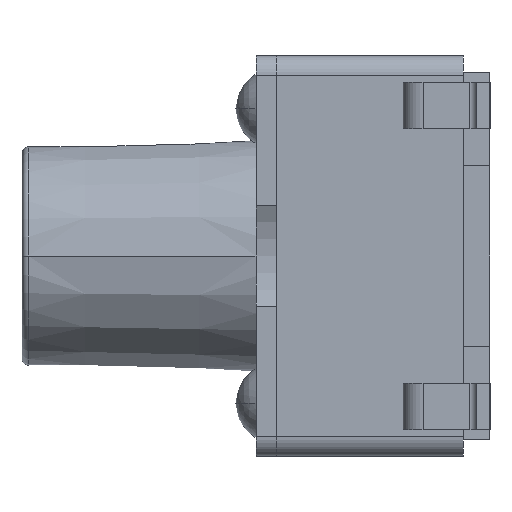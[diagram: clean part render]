
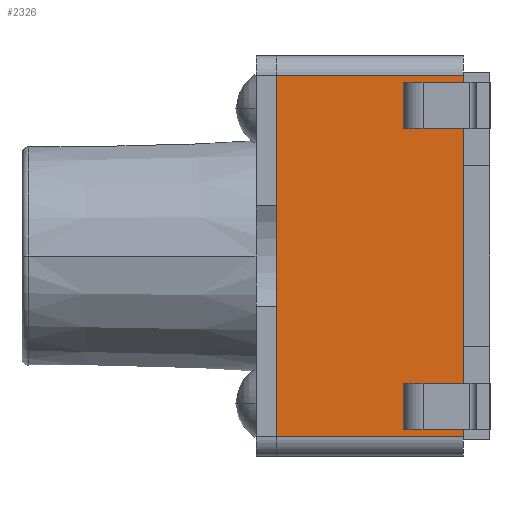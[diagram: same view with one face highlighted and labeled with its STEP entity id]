
A CAD part, left-side view. The second image highlights one B-rep face of the part: STEP entity #2326.
In plain terms, the highlighted planar face has unit normal (-1, 0, 0).
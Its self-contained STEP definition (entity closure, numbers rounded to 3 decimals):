
#165=DIRECTION('',(0.,-1.,0.));
#166=VECTOR('',#165,2.8);
#167=CARTESIAN_POINT('',(-3.,3.2,-2.7));
#168=LINE('',#167,#166);
#209=DIRECTION('',(0.,1.,0.));
#210=VECTOR('',#209,2.8);
#211=CARTESIAN_POINT('',(-3.,0.4,2.7));
#212=LINE('',#211,#210);
#217=DIRECTION('',(0.,0.,-1.));
#218=VECTOR('',#217,5.4);
#219=CARTESIAN_POINT('',(-3.,0.4,2.7));
#220=LINE('',#219,#218);
#221=DIRECTION('',(0.,0.,1.));
#222=VECTOR('',#221,5.4);
#223=CARTESIAN_POINT('',(-3.,3.2,-2.7));
#224=LINE('',#223,#222);
#225=DIRECTION('',(0.,0.,1.));
#226=VECTOR('',#225,0.7);
#227=CARTESIAN_POINT('',(-3.,1.1,1.9));
#228=LINE('',#227,#226);
#229=DIRECTION('',(0.,1.,0.));
#230=VECTOR('',#229,0.2);
#231=CARTESIAN_POINT('',(-3.,1.1,2.6));
#232=LINE('',#231,#230);
#233=DIRECTION('',(0.,0.,-1.));
#234=VECTOR('',#233,0.7);
#235=CARTESIAN_POINT('',(-3.,1.3,2.6));
#236=LINE('',#235,#234);
#237=DIRECTION('',(0.,0.,1.));
#238=VECTOR('',#237,0.7);
#239=CARTESIAN_POINT('',(-3.,1.1,-2.6));
#240=LINE('',#239,#238);
#241=DIRECTION('',(0.,1.,0.));
#242=VECTOR('',#241,0.2);
#243=CARTESIAN_POINT('',(-3.,1.1,-1.9));
#244=LINE('',#243,#242);
#245=DIRECTION('',(0.,0.,-1.));
#246=VECTOR('',#245,0.7);
#247=CARTESIAN_POINT('',(-3.,1.3,-1.9));
#248=LINE('',#247,#246);
#585=DIRECTION('',(0.,1.,0.));
#586=VECTOR('',#585,0.2);
#587=CARTESIAN_POINT('',(-3.,1.1,1.9));
#588=LINE('',#587,#586);
#725=DIRECTION('',(0.,1.,0.));
#726=VECTOR('',#725,0.2);
#727=CARTESIAN_POINT('',(-3.,1.1,-2.6));
#728=LINE('',#727,#726);
#1566=CARTESIAN_POINT('',(-3.,0.4,
-2.7));
#1568=VERTEX_POINT('',#1566);
#1569=CARTESIAN_POINT('',(-3.,0.4,
2.7));
#1570=VERTEX_POINT('',#1569);
#1611=CARTESIAN_POINT('',(-3.,3.2,
-2.7));
#1612=VERTEX_POINT('',#1611);
#1639=CARTESIAN_POINT('',(-3.,3.2,2.7));
#1640=VERTEX_POINT('',#1639);
#1641=CARTESIAN_POINT('',(-3.,1.1,1.9));
#1642=CARTESIAN_POINT('',(-3.,1.3,1.9));
#1643=VERTEX_POINT('',#1641);
#1644=VERTEX_POINT('',#1642);
#1645=CARTESIAN_POINT('',(-3.,1.1,2.6));
#1646=VERTEX_POINT('',#1645);
#1647=CARTESIAN_POINT('',(-3.,1.3,2.6));
#1648=VERTEX_POINT('',#1647);
#1649=CARTESIAN_POINT('',(-3.,1.1,
-2.6));
#1650=CARTESIAN_POINT('',(-3.,1.3,
-2.6));
#1651=VERTEX_POINT('',#1649);
#1652=VERTEX_POINT('',#1650);
#1653=CARTESIAN_POINT('',(-3.,1.1,
-1.9));
#1654=VERTEX_POINT('',#1653);
#1655=CARTESIAN_POINT('',(-3.,1.3,
-1.9));
#1656=VERTEX_POINT('',#1655);
#2294=CARTESIAN_POINT('',(-3.,0.,-2.7));
#2295=DIRECTION('',(-1.,0.,0.));
#2296=DIRECTION('',(0.,0.,1.));
#2297=AXIS2_PLACEMENT_3D('',#2294,#2295,#2296);
#2298=PLANE('',#2297);
#2299=ORIENTED_EDGE('',*,*,#2121,.T.);
#2300=ORIENTED_EDGE('',*,*,#2185,.F.);
#2302=ORIENTED_EDGE('',*,*,#2301,.T.);
#2303=ORIENTED_EDGE('',*,*,#2286,.F.);
#2304=EDGE_LOOP('',(#2299,#2300,#2302,#2303));
#2305=FACE_OUTER_BOUND('',#2304,.F.);
#2307=ORIENTED_EDGE('',*,*,#2306,.F.);
#2309=ORIENTED_EDGE('',*,*,#2308,.T.);
#2311=ORIENTED_EDGE('',*,*,#2310,.T.);
#2313=ORIENTED_EDGE('',*,*,#2312,.T.);
#2314=EDGE_LOOP('',(#2307,#2309,#2311,#2313));
#2315=FACE_BOUND('',#2314,.F.);
#2317=ORIENTED_EDGE('',*,*,#2316,.F.);
#2319=ORIENTED_EDGE('',*,*,#2318,.T.);
#2321=ORIENTED_EDGE('',*,*,#2320,.T.);
#2323=ORIENTED_EDGE('',*,*,#2322,.T.);
#2324=EDGE_LOOP('',(#2317,#2319,#2321,#2323));
#2325=FACE_BOUND('',#2324,.F.);
#2121=EDGE_CURVE('',#1570,#1568,#220,.T.);
#2185=EDGE_CURVE('',#1612,#1568,#168,.T.);
#2286=EDGE_CURVE('',#1570,#1640,#212,.T.);
#2301=EDGE_CURVE('',#1612,#1640,#224,.T.);
#2306=EDGE_CURVE('',#1643,#1644,#588,.T.);
#2308=EDGE_CURVE('',#1643,#1646,#228,.T.);
#2310=EDGE_CURVE('',#1646,#1648,#232,.T.);
#2312=EDGE_CURVE('',#1648,#1644,#236,.T.);
#2316=EDGE_CURVE('',#1651,#1652,#728,.T.);
#2318=EDGE_CURVE('',#1651,#1654,#240,.T.);
#2320=EDGE_CURVE('',#1654,#1656,#244,.T.);
#2322=EDGE_CURVE('',#1656,#1652,#248,.T.);
#2326=ADVANCED_FACE('',(#2305,#2315,#2325),#2298,.T.);
